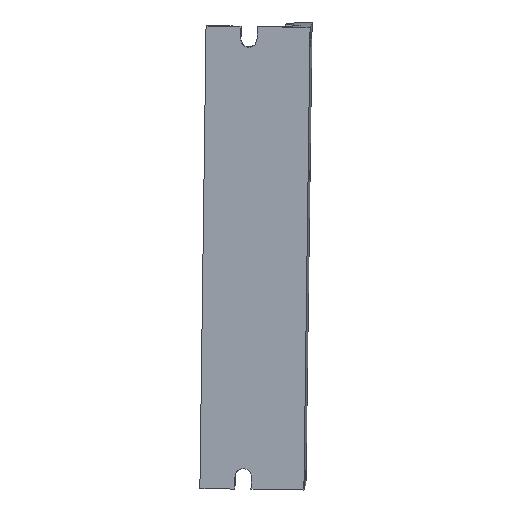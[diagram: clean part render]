
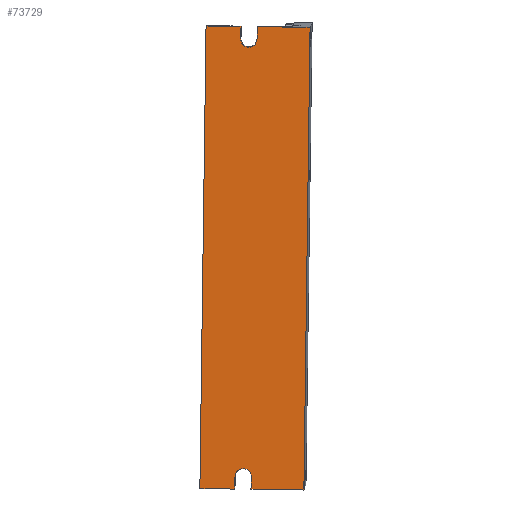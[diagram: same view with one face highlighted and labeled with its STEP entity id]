
A CAD part, left-side view. The second image highlights one B-rep face of the part: STEP entity #73729.
In plain terms, the highlighted planar face has unit normal (-1, 0.007, -0.018).
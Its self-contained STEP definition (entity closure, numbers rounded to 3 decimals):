
#1103 = CIRCLE ( 'NONE', #37770, 2.25 ) ;
#1581 = VERTEX_POINT ( 'NONE', #74313 ) ;
#2436 = VECTOR ( 'NONE', #14292, 1000. ) ;
#2912 = DIRECTION ( 'NONE',  ( -0.007, -1., -0.013 ) ) ;
#4203 = ORIENTED_EDGE ( 'NONE', *, *, #57619, .T. ) ;
#5214 = CARTESIAN_POINT ( 'NONE',  ( -36.159, 16.282, 64.143 ) ) ;
#5289 = CARTESIAN_POINT ( 'NONE',  ( -38.567, 10.061, 193.049 ) ) ;
#6332 = CARTESIAN_POINT ( 'NONE',  ( -36.223, 16.235, 67.642 ) ) ;
#6582 = VERTEX_POINT ( 'NONE', #20870 ) ;
#6612 = CARTESIAN_POINT ( 'NONE',  ( -38.567, 10.061, 193.049 ) ) ;
#7155 = CARTESIAN_POINT ( 'NONE',  ( -38.486, 12.357, 189.58 ) ) ;
#7780 = LINE ( 'NONE', #5289, #38731 ) ;
#8092 = CARTESIAN_POINT ( 'NONE',  ( -38.567, 10.061, 193.049 ) ) ;
#9893 = EDGE_CURVE ( 'NONE', #67397, #6582, #49079, .T. ) ;
#10030 = LINE ( 'NONE', #26864, #40955 ) ;
#11331 = VERTEX_POINT ( 'NONE', #79584 ) ;
#11491 = DIRECTION ( 'NONE',  ( 0.018, 0.013, -1. ) ) ;
#13348 = DIRECTION ( 'NONE',  ( 0.018, 0.013, -1. ) ) ;
#13809 = CARTESIAN_POINT ( 'NONE',  ( -38.486, 12.357, 189.58 ) ) ;
#14292 = DIRECTION ( 'NONE',  ( 0.018, 0.013, -1. ) ) ;
#14578 = CARTESIAN_POINT ( 'NONE',  ( -38.672, -4.687, 192.85 ) ) ;
#15516 = ORIENTED_EDGE ( 'NONE', *, *, #28498, .F. ) ;
#17957 = DIRECTION ( 'NONE',  ( 0.018, 0.013, -1. ) ) ;
#18067 = VERTEX_POINT ( 'NONE', #73077 ) ;
#18353 = CARTESIAN_POINT ( 'NONE',  ( -38.672, -4.687, 192.85 ) ) ;
#18675 = CARTESIAN_POINT ( 'NONE',  ( -38.502, 10.108, 189.55 ) ) ;
#19288 = AXIS2_PLACEMENT_3D ( 'NONE', #63227, #26187, #69440 ) ;
#20044 = DIRECTION ( 'NONE',  ( 0.018, 0.013, -1. ) ) ;
#20537 = PLANE ( 'NONE',  #72079 ) ;
#20803 = DIRECTION ( 'NONE',  ( 0.018, 0.013, -1. ) ) ;
#20870 = CARTESIAN_POINT ( 'NONE',  ( -38.445, 12.388, 187.331 ) ) ;
#21391 = AXIS2_PLACEMENT_3D ( 'NONE', #13809, #57097, #20044 ) ;
#21523 = VECTOR ( 'NONE', #37684, 1000. ) ;
#21610 = CARTESIAN_POINT ( 'NONE',  ( -36.256, 11.736, 67.581 ) ) ;
#24061 = VECTOR ( 'NONE', #55656, 1000. ) ;
#25036 = VECTOR ( 'NONE', #78940, 1000. ) ;
#26187 = DIRECTION ( 'NONE',  ( 1., -0.007, 0.018 ) ) ;
#26864 = CARTESIAN_POINT ( 'NONE',  ( -36.296, -2.966, 63.883 ) ) ;
#27920 = VECTOR ( 'NONE', #17957, 1000. ) ;
#27986 = VECTOR ( 'NONE', #35318, 1000. ) ;
#28233 = VECTOR ( 'NONE', #39008, 1000. ) ;
#28498 = EDGE_CURVE ( 'NONE', #1581, #72136, #42451, .T. ) ;
#30191 = EDGE_CURVE ( 'NONE', #33681, #67397, #68254, .T. ) ;
#31391 = CARTESIAN_POINT ( 'NONE',  ( -36.296, -2.966, 63.883 ) ) ;
#32102 = EDGE_CURVE ( 'NONE', #69647, #67621, #50321, .T. ) ;
#32875 = ORIENTED_EDGE ( 'NONE', *, *, #75958, .T. ) ;
#33046 = DIRECTION ( 'NONE',  ( -0.007, -1., -0.013 ) ) ;
#33555 = ORIENTED_EDGE ( 'NONE', *, *, #64883, .T. ) ;
#33605 = VERTEX_POINT ( 'NONE', #73610 ) ;
#33681 = VERTEX_POINT ( 'NONE', #6612 ) ;
#35318 = DIRECTION ( 'NONE',  ( -0.018, -0.013, 1. ) ) ;
#35710 = CARTESIAN_POINT ( 'NONE',  ( -38.535, 14.561, 193.11 ) ) ;
#37684 = DIRECTION ( 'NONE',  ( -0.007, -1., -0.013 ) ) ;
#37770 = AXIS2_PLACEMENT_3D ( 'NONE', #7155, #50368, #13348 ) ;
#37833 = ORIENTED_EDGE ( 'NONE', *, *, #63527, .F. ) ;
#38731 = VECTOR ( 'NONE', #11491, 1000. ) ;
#39008 = DIRECTION ( 'NONE',  ( 0.018, 0.013, -1. ) ) ;
#39735 = EDGE_CURVE ( 'NONE', #67291, #69647, #41446, .T. ) ;
#39972 = CARTESIAN_POINT ( 'NONE',  ( -36.296, -2.966, 63.883 ) ) ;
#40955 = VECTOR ( 'NONE', #33046, 1000. ) ;
#41446 = LINE ( 'NONE', #35710, #25036 ) ;
#41537 = CARTESIAN_POINT ( 'NONE',  ( -38.535, 14.561, 193.11 ) ) ;
#42451 = LINE ( 'NONE', #18353, #24061 ) ;
#43215 = CARTESIAN_POINT ( 'NONE',  ( -38.535, 14.561, 193.11 ) ) ;
#43411 = EDGE_CURVE ( 'NONE', #1581, #11331, #44669, .T. ) ;
#43416 = ORIENTED_EDGE ( 'NONE', *, *, #43411, .T. ) ;
#44296 = VECTOR ( 'NONE', #2912, 1000. ) ;
#44669 = LINE ( 'NONE', #44943, #28233 ) ;
#44943 = CARTESIAN_POINT ( 'NONE',  ( -38.465, 24.309, 193.241 ) ) ;
#45300 = FACE_OUTER_BOUND ( 'NONE', #71251, .T. ) ;
#45580 = CARTESIAN_POINT ( 'NONE',  ( -38.672, -4.687, 192.85 ) ) ;
#46199 = LINE ( 'NONE', #45580, #44296 ) ;
#48079 = ORIENTED_EDGE ( 'NONE', *, *, #32102, .T. ) ;
#48406 = ORIENTED_EDGE ( 'NONE', *, *, #49265, .F. ) ;
#49079 = CIRCLE ( 'NONE', #21391, 2.25 ) ;
#49265 = EDGE_CURVE ( 'NONE', #33605, #73810, #60853, .T. ) ;
#50321 = CIRCLE ( 'NONE', #19288, 2.25 ) ;
#50368 = DIRECTION ( 'NONE',  ( 1., -0.007, 0.018 ) ) ;
#52644 = ORIENTED_EDGE ( 'NONE', *, *, #39735, .T. ) ;
#53478 = EDGE_CURVE ( 'NONE', #11331, #67291, #56371, .T. ) ;
#55033 = CARTESIAN_POINT ( 'NONE',  ( -38.672, -4.687, 192.85 ) ) ;
#55615 = VERTEX_POINT ( 'NONE', #61820 ) ;
#55656 = DIRECTION ( 'NONE',  ( -0.007, -1., -0.013 ) ) ;
#56371 = LINE ( 'NONE', #31391, #21523 ) ;
#57097 = DIRECTION ( 'NONE',  ( 1., -0.007, 0.018 ) ) ;
#57619 = EDGE_CURVE ( 'NONE', #67621, #55615, #7780, .T. ) ;
#57870 = DIRECTION ( 'NONE',  ( 1., -0.007, 0.018 ) ) ;
#58968 = LINE ( 'NONE', #41537, #27986 ) ;
#60853 = LINE ( 'NONE', #55033, #27920 ) ;
#61820 = CARTESIAN_POINT ( 'NONE',  ( -36.191, 11.783, 64.082 ) ) ;
#63227 = CARTESIAN_POINT ( 'NONE',  ( -36.24, 13.986, 67.612 ) ) ;
#63527 = EDGE_CURVE ( 'NONE', #33681, #33605, #46199, .T. ) ;
#64883 = EDGE_CURVE ( 'NONE', #6582, #18067, #1103, .T. ) ;
#67291 = VERTEX_POINT ( 'NONE', #5214 ) ;
#67397 = VERTEX_POINT ( 'NONE', #18675 ) ;
#67621 = VERTEX_POINT ( 'NONE', #21610 ) ;
#68131 = EDGE_CURVE ( 'NONE', #18067, #72136, #58968, .T. ) ;
#68254 = LINE ( 'NONE', #8092, #2436 ) ;
#68833 = ORIENTED_EDGE ( 'NONE', *, *, #53478, .T. ) ;
#68937 = ORIENTED_EDGE ( 'NONE', *, *, #68131, .T. ) ;
#69440 = DIRECTION ( 'NONE',  ( 0.018, 0.013, -1. ) ) ;
#69647 = VERTEX_POINT ( 'NONE', #6332 ) ;
#71251 = EDGE_LOOP ( 'NONE', ( #48079, #4203, #32875, #48406, #37833, #75407, #72712, #33555, #68937, #15516, #43416, #68833, #52644 ) ) ;
#72079 = AXIS2_PLACEMENT_3D ( 'NONE', #14578, #57870, #20803 ) ;
#72136 = VERTEX_POINT ( 'NONE', #43215 ) ;
#72712 = ORIENTED_EDGE ( 'NONE', *, *, #9893, .T. ) ;
#73077 = CARTESIAN_POINT ( 'NONE',  ( -38.47, 14.607, 189.61 ) ) ;
#73610 = CARTESIAN_POINT ( 'NONE',  ( -38.672, -4.687, 192.85 ) ) ;
#73729 = ADVANCED_FACE ( 'NONE', ( #45300 ), #20537, .F. ) ;
#73810 = VERTEX_POINT ( 'NONE', #39972 ) ;
#74313 = CARTESIAN_POINT ( 'NONE',  ( -38.465, 24.309, 193.241 ) ) ;
#75407 = ORIENTED_EDGE ( 'NONE', *, *, #30191, .T. ) ;
#75958 = EDGE_CURVE ( 'NONE', #55615, #73810, #10030, .T. ) ;
#78940 = DIRECTION ( 'NONE',  ( -0.018, -0.013, 1. ) ) ;
#79584 = CARTESIAN_POINT ( 'NONE',  ( -36.089, 26.031, 64.274 ) ) ;
